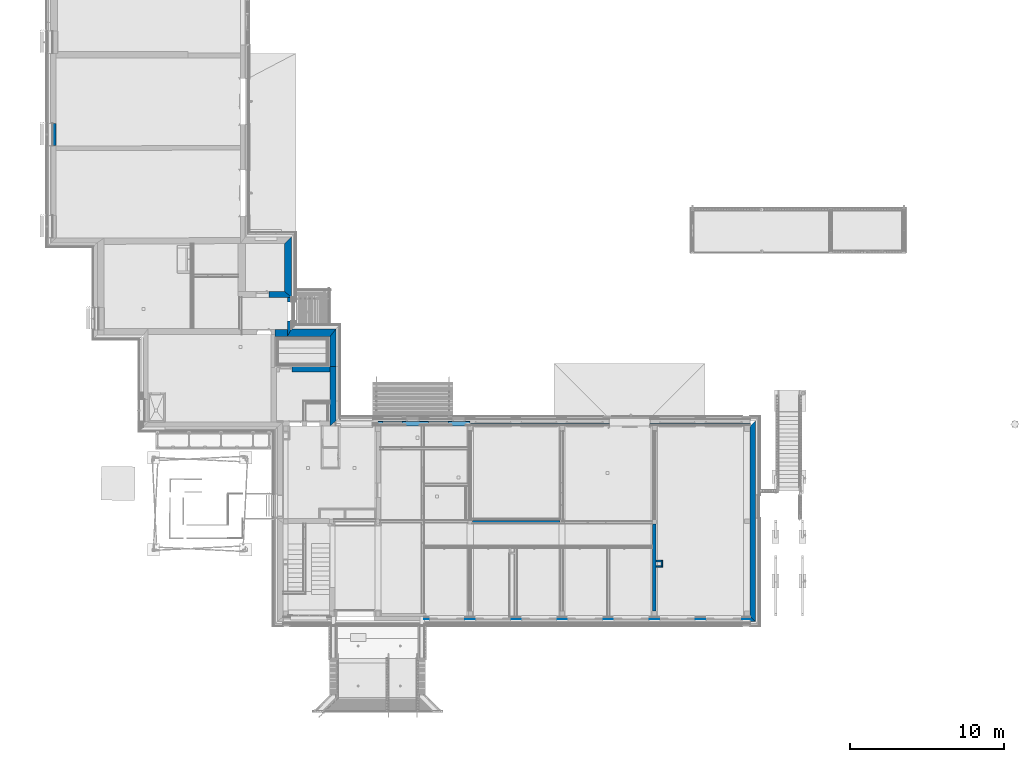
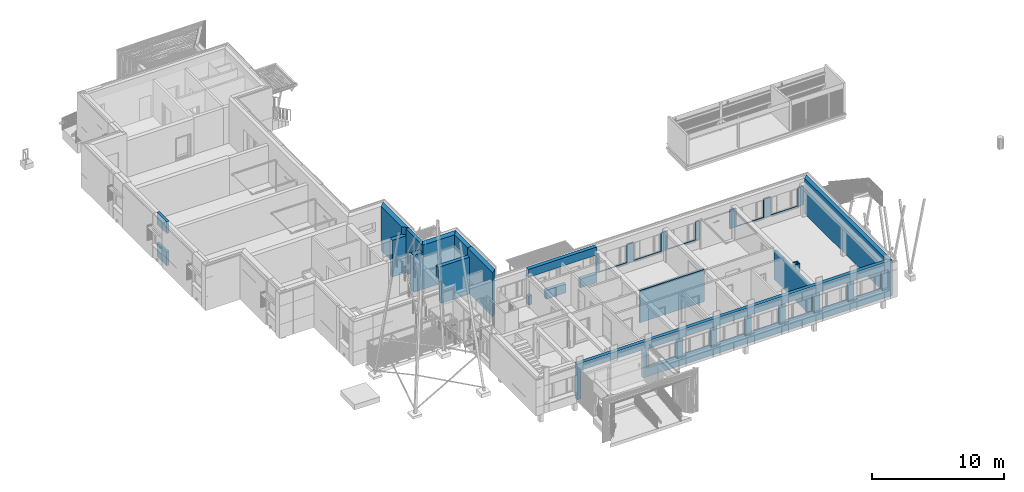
# One storey, part 24 of 418: 20 walls, 28 openings.
"""IFC2X3 building model written with IfcOpenShell, lengths in millimetres."""

from ifc_helpers import new_model, entity, si_unit, converted_unit, derived_unit, money_unit, direction, frame, origin_with_axes, origin_2d_with_axis, place, context, subcontext, project, spatial, polyline, rectangle, outline, extrude, material, layer, layer_set, layer_usage, type_object, element, save


model = new_model("IFC2X3")

# Units and contexts
model_context = context("Model", 3, precision=0.01, world=origin_with_axes(), true_north=direction((0.0, 1.0)))
body_context = subcontext(model_context, "Body", "Model", "MODEL_VIEW")
ifc_project = project(units=[si_unit("LENGTHUNIT", "METRE", prefix="MILLI"), si_unit("AREAUNIT", "SQUARE_METRE"), si_unit("VOLUMEUNIT", "CUBIC_METRE"), converted_unit("PLANEANGLEUNIT", "DEGREE", entity("IfcPlaneAngleMeasure", 0.0174532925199), si_unit("PLANEANGLEUNIT", "RADIAN"), dimensions=[0, 0, 0, 0, 0, 0, 0]), si_unit("SOLIDANGLEUNIT", "STERADIAN"), money_unit("EUR"), converted_unit("TIMEUNIT", "Year", entity("IfcTimeMeasure", 31556926.0), si_unit("TIMEUNIT", "SECOND"), dimensions=[0, 0, 1, 0, 0, 0, 0]), si_unit("MASSUNIT", "GRAM", prefix="KILO"), si_unit("THERMODYNAMICTEMPERATUREUNIT", "DEGREE_CELSIUS"), si_unit("LUMINOUSINTENSITYUNIT", "LUMEN"), si_unit("ENERGYUNIT", "JOULE", prefix="MEGA"), derived_unit("THERMALCONDUCTANCEUNIT", [(si_unit("POWERUNIT", "WATT"), 1), (si_unit("LENGTHUNIT", "METRE"), -1), (si_unit("THERMODYNAMICTEMPERATUREUNIT", "KELVIN"), -1)]), derived_unit("SPECIFICHEATCAPACITYUNIT", [(si_unit("ENERGYUNIT", "JOULE"), 1), (si_unit("MASSUNIT", "GRAM", prefix="KILO"), -1), (si_unit("THERMODYNAMICTEMPERATUREUNIT", "KELVIN"), -1)]), derived_unit("MASSDENSITYUNIT", [(si_unit("MASSUNIT", "GRAM", prefix="KILO"), 1), (si_unit("VOLUMEUNIT", "CUBIC_METRE"), -1)])], contexts=[model_context])

# Site, building, storey
site_placement = place(None, origin_with_axes())
site = spatial("IfcSite", under=ifc_project, at=site_placement, Name="Paldiski mnt 245/1, Tallinn, Harjumaa", CompositionType="COMPLEX")
building_placement = place(site_placement, origin_with_axes())
building = spatial("IfcBuilding", under=site, at=building_placement, Name="RKAS Hoone üldnimetus (kasutust iseloomustav) -> IFC Project Manager -> SOLIBRI", CompositionType="ELEMENT")
storey_placement = place(building_placement, origin_with_axes())
storey = spatial("IfcBuildingStorey", under=building, at=storey_placement, Name="Esimene korrus", CompositionType="ELEMENT", Elevation=0.0)

# Wall, openings
ifc_material_1 = material(Name="Olemasolev silikaltsiitpaneel")
ifc_layer_1 = layer(ifc_material_1, 320.0, ventilated="UNKNOWN")
ifc_layer_set_1 = layer_set([ifc_layer_1], Name="VS-02_olol")
ifc_layer_usage_1 = layer_usage(ifc_layer_set_1, "AXIS2", "NEGATIVE", 0.0)
wall_type_1 = type_object("IfcWallType", Name="VS-02_olol 320", PredefinedType="NOTDEFINED")
wall_1_placement = place(storey_placement, frame((-35440.0, -109.999999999, 2560.0), z_axis=(0.0, 0.0, 1.0), x_axis=(-1.0, 0.0, 0.0)))
wall_1 = element("IfcWallStandardCase", 1, at=wall_1_placement, inside=storey, type_object=wall_type_1, material=ifc_layer_usage_1, Name="VS-02", context=body_context, shape_type="SweptSolid", body=[
    extrude(outline(polyline([(0.0, -320.0), (6000.0, -320.0), (6000.0, 0.0), (0.0, 0.0), (0.0, -320.0)])), origin_with_axes(), (0.0, 0.0, 1.0), 740.0),
])
opening_1_placement = place(wall_1_placement, frame((-35440.0, -109.999999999, -2560.0), z_axis=(0.0, 0.0, 1.0), x_axis=(-1.0, 0.0, 0.0)))
element("IfcOpeningElement", 2, at=opening_1_placement, cuts=wall_1, Name="AVA", ObjectType="OPENING", context=body_context, shape_type="SweptSolid", body=[
    extrude(rectangle(XDim=1250.0, YDim=2100.0, at=origin_2d_with_axis()), frame((-40501.0, 530.000000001, 1050.0), z_axis=(0.0, 1.0, 0.0), x_axis=(-1.0, 0.0, 0.0)), (0.0, 0.0, -1.0), 960.000000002),
])
opening_2_placement = place(wall_1_placement, frame((-35440.0, -109.999999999, -2560.0), z_axis=(0.0, 0.0, 1.0), x_axis=(-1.0, 0.0, 0.0)))
element("IfcOpeningElement", 3, at=opening_2_placement, cuts=wall_1, Name="AVA", ObjectType="OPENING", context=body_context, shape_type="SweptSolid", body=[
    extrude(rectangle(XDim=1250.0, YDim=840.0, at=origin_2d_with_axis()), frame((-40501.0000027, 290.000059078, 420.0), z_axis=(0.0, 1.0, 0.0), x_axis=(-1.0, 0.0, 0.0)), (0.0, 0.0, -1.0), 720.000059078),
])
opening_3_placement = place(wall_1_placement, frame((-35440.0, -109.999999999, -2560.0), z_axis=(0.0, 0.0, 1.0), x_axis=(-1.0, 0.0, 0.0)))
element("IfcOpeningElement", 4, at=opening_3_placement, cuts=wall_1, Name="AVA", ObjectType="OPENING", context=body_context, shape_type="SweptSolid", body=[
    extrude(rectangle(XDim=1250.0, YDim=840.0, at=origin_2d_with_axis()), frame((-37511.0000024, 290.000059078, 420.0), z_axis=(0.0, 1.0, 0.0), x_axis=(-1.0, 0.0, 0.0)), (0.0, 0.0, -1.0), 720.000059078),
])
opening_4_placement = place(wall_1_placement, frame((-35440.0, -109.999999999, -2560.0), z_axis=(0.0, 0.0, 1.0), x_axis=(-1.0, 0.0, 0.0)))
element("IfcOpeningElement", 5, at=opening_4_placement, cuts=wall_1, Name="AVA", ObjectType="OPENING", context=body_context, shape_type="SweptSolid", body=[
    extrude(rectangle(XDim=1250.0, YDim=2100.0, at=origin_2d_with_axis()), frame((-37511.0, 530.000000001, 1050.0), z_axis=(0.0, 1.0, 0.0), x_axis=(-1.0, 0.0, 0.0)), (0.0, 0.0, -1.0), 960.000000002),
])

ifc_layer_usage_2 = layer_usage(ifc_layer_set_1, "AXIS2", "POSITIVE", 0.0)
wall_2_placement = place(storey_placement, frame((-17230.0, -12510.0843011, 0.0), z_axis=(0.0, 0.0, 1.0), x_axis=(-1.0, 0.0, 0.0)))
wall_2 = element("IfcWallStandardCase", 6, at=wall_2_placement, inside=storey, type_object=wall_type_1, material=ifc_layer_usage_2, Name="VS-02", context=body_context, shape_type="SweptSolid", body=[
    extrude(outline(polyline([(0.0, 0.0), (27260.0, 0.0), (27260.0, 320.0), (-350.0, 320.0), (0.0, 0.0)])), origin_with_axes(), (0.0, 0.0, 1.0), 3300.0),
])
opening_5_placement = place(wall_2_placement, frame((-17230.0, -12510.0843011, 0.0), z_axis=(0.0, 0.0, 1.0), x_axis=(-1.0, 0.0, 0.0)))
element("IfcOpeningElement", 7, at=opening_5_placement, cuts=wall_2, Name="AVA", ObjectType="OPENING", context=body_context, shape_type="SweptSolid", body=[
    extrude(rectangle(XDim=21190.0, YDim=1750.0, at=origin_2d_with_axis()), frame((-27825.0, -12190.0843011, 1685.0), z_axis=(0.0, 1.0, 0.0), x_axis=(-1.0, 0.0, 0.0)), (0.0, 0.0, -1.0), 960.000000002),
])
opening_6_placement = place(wall_2_placement, frame((-17230.0, -12510.0843011, 0.0), z_axis=(0.0, 0.0, 1.0), x_axis=(-1.0, 0.0, 0.0)))
element("IfcOpeningElement", 8, at=opening_6_placement, cuts=wall_2, Name="AVA", ObjectType="OPENING", context=body_context, shape_type="SweptSolid", body=[
    extrude(rectangle(XDim=5470.0, YDim=2620.0, at=origin_2d_with_axis()), frame((-41455.0, -12190.0843011, 1310.0), z_axis=(0.0, 1.0, 0.0), x_axis=(-1.0, 0.0, 0.0)), (0.0, 0.0, -1.0), 960.000000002),
])

# Walls
ifc_material_2 = material(Name="Olemasolev silikaltsiitplokk")
ifc_layer_2 = layer(ifc_material_2, 440.0, ventilated="UNKNOWN")
ifc_layer_set_2 = layer_set([ifc_layer_2], Name="Olemasolev silikaltsiitplokk 440")
ifc_layer_usage_3 = layer_usage(ifc_layer_set_2, "AXIS2", "NEGATIVE", 0.0)
wall_type_2 = type_object("IfcWallType", Name="Olemasolev silikaltsiitplokk 440", PredefinedType="NOTDEFINED")
wall_3_placement = place(storey_placement, frame((-47510.0, 8250.0, 0.0), z_axis=(0.0, 0.0, 1.0), x_axis=(0.0, 1.0, 0.0)))
element("IfcWallStandardCase", 9, at=wall_3_placement, inside=storey, type_object=wall_type_2, material=ifc_layer_usage_3, Name="VS-03", context=body_context, shape_type="SweptSolid", body=[
    extrude(outline(polyline([(0.0, -440.0), (3939.82872435, -440.0), (3499.82872435, 0.0), (380.0, 0.0), (0.0, -440.0)])), origin_with_axes(), (0.0, 0.0, 1.0), 4090.0),
])
ifc_layer_3 = layer(ifc_material_2, 350.0, ventilated="UNKNOWN")
ifc_layer_set_3 = layer_set([ifc_layer_3], Name="Olemasolev silikaltsiitplokk 350")
ifc_layer_usage_4 = layer_usage(ifc_layer_set_3, "AXIS2", "NEGATIVE", 0.0)
wall_type_3 = type_object("IfcWallType", Name="Olemasolev silikaltsiitplokk 350", PredefinedType="NOTDEFINED")
wall_4_placement = place(storey_placement, frame((-17230.0, -12510.0843011, 0.0), z_axis=(0.0, 0.0, 1.0), x_axis=(0.0, 1.0, 0.0)))
element("IfcWallStandardCase", 10, at=wall_4_placement, inside=storey, type_object=wall_type_3, material=ifc_layer_usage_4, Name="VS-03", context=body_context, shape_type="SweptSolid", body=[
    extrude(outline(polyline([(-320.0, -350.0), (12720.0843011, -350.0), (12400.0843011, 0.0), (0.0, 0.0), (-320.0, -350.0)])), origin_with_axes(), (0.0, 0.0, 1.0), 3300.0),
])
ifc_layer_4 = layer(ifc_material_2, 380.0, ventilated="UNKNOWN")
ifc_layer_set_4 = layer_set([ifc_layer_4], Name="Olemasolev silikaltsiitplokk 380")
ifc_layer_usage_5 = layer_usage(ifc_layer_set_4, "AXIS2", "NEGATIVE", 0.0)
wall_type_4 = type_object("IfcWallType", Name="Olemasolev silikaltsiitplokk 380", PredefinedType="NOTDEFINED")
wall_5_placement = place(storey_placement, frame((-44560.5504586, 3739.82872435, 0.0), z_axis=(0.0, 0.0, 1.0), x_axis=(0.0, 1.0, 0.0)))
element("IfcWallStandardCase", 11, at=wall_5_placement, inside=storey, type_object=wall_type_4, material=ifc_layer_usage_5, Name="VS-07", context=body_context, shape_type="SweptSolid", body=[
    extrude(outline(polyline([(0.0, -380.0), (2450.0, -380.0), (1960.0, 0.0), (0.0, 0.0), (0.0, -380.0)])), origin_with_axes(), (0.0, 0.0, 1.0), 4090.0),
])
ifc_layer_usage_6 = layer_usage(ifc_layer_set_4, "AXIS2", "NEGATIVE", 0.0)
wall_6_placement = place(storey_placement, frame((-44560.5504586, -109.999999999, 0.0), z_axis=(0.0, 0.0, 1.0), x_axis=(0.0, 1.0, 0.0)))
element("IfcWallStandardCase", 12, at=wall_6_placement, inside=storey, type_object=wall_type_4, material=ifc_layer_usage_6, Name="VS-03", context=body_context, shape_type="SweptSolid", body=[
    extrude(outline(polyline([(320.0, -380.0), (3849.82872435, -380.0), (3849.82872435, 0.0), (0.0, 0.0), (320.0, -380.0)])), origin_with_axes(), (0.0, 0.0, 1.0), 4090.0),
])
ifc_layer_usage_7 = layer_usage(ifc_layer_set_4, "AXIS2", "NEGATIVE", 0.0)
wall_7_placement = place(storey_placement, frame((-47510.0, 8250.0, 0.0), z_axis=(0.0, 0.0, 1.0), x_axis=(-1.0, 0.0, 0.0)))
element("IfcWallStandardCase", 13, at=wall_7_placement, inside=storey, type_object=wall_type_4, material=ifc_layer_usage_7, Name="SS-02", context=body_context, shape_type="SweptSolid", body=[
    extrude(outline(polyline([(0.0, -380.0), (1014.99759051, -380.0), (1014.99759051, 0.0), (-440.0, 0.0), (0.0, -380.0)])), origin_with_axes(), (0.0, 0.0, 1.0), 3411.80696097),
])
ifc_material_3 = material(Name="BAUROC Acoustic")
ifc_layer_5 = layer(ifc_material_3, 100.0, ventilated="UNKNOWN")
ifc_layer_set_5 = layer_set([ifc_layer_5], Name="SS-11")
ifc_layer_usage_8 = layer_usage(ifc_layer_set_5, "AXIS2", "NEGATIVE", 100.0)
wall_type_5 = type_object("IfcWallType", Name="SS-11 100", PredefinedType="NOTDEFINED")
wall_8_placement = place(storey_placement, frame((-23015.0, -9199.82374061, 0.0), z_axis=(0.0, 0.0, 1.0), x_axis=(-1.0, 0.0, 0.0)))
element("IfcWallStandardCase", 14, at=wall_8_placement, inside=storey, type_object=wall_type_5, material=ifc_layer_usage_8, Name="SS-11", context=body_context, shape_type="SweptSolid", body=[
    extrude(outline(polyline([(0.0, 0.0), (325.0, 0.0), (325.0, 100.0), (-100.0, 100.0), (0.0, 0.0)])), origin_with_axes(), (0.0, 0.0, 1.0), 2950.0),
])
ifc_layer_usage_9 = layer_usage(ifc_layer_set_5, "AXIS2", "NEGATIVE", 100.0)
wall_9_placement = place(storey_placement, frame((-23340.0, -8949.82374061, 0.0), z_axis=(0.0, 0.0, 1.0), x_axis=(1.0, 0.0, 0.0)))
element("IfcWallStandardCase", 15, at=wall_9_placement, inside=storey, type_object=wall_type_5, material=ifc_layer_usage_9, Name="SS-11", context=body_context, shape_type="SweptSolid", body=[
    extrude(outline(polyline([(0.0, 0.0), (325.0, 0.0), (425.0, 100.0), (0.0, 100.0), (0.0, 0.0)])), origin_with_axes(), (0.0, 0.0, 1.0), 2950.0),
])
ifc_layer_usage_10 = layer_usage(ifc_layer_set_5, "AXIS2", "NEGATIVE", 100.0)
wall_10_placement = place(storey_placement, frame((-23015.0, -8949.82374061, 0.0), z_axis=(0.0, 0.0, 1.0), x_axis=(0.0, -1.0, 0.0)))
element("IfcWallStandardCase", 16, at=wall_10_placement, inside=storey, type_object=wall_type_5, material=ifc_layer_usage_10, Name="SS-11", context=body_context, shape_type="SweptSolid", body=[
    extrude(outline(polyline([(0.0, 0.0), (250.0, 0.0), (350.0, 100.0), (-100.0, 100.0), (0.0, 0.0)])), origin_with_axes(), (0.0, 0.0, 1.0), 2950.0),
])
ifc_layer_6 = layer(ifc_material_2, 490.0, ventilated="UNKNOWN")
ifc_layer_set_6 = layer_set([ifc_layer_6], Name="Olemasolev silikaltsiitplokk 490")
ifc_layer_usage_11 = layer_usage(ifc_layer_set_6, "AXIS2", "NEGATIVE", 0.0)
wall_type_6 = type_object("IfcWallType", Name="Olemasolev silikaltsiitplokk 490", PredefinedType="NOTDEFINED")
wall_11_placement = place(storey_placement, frame((-44560.5504586, 5699.82872435, 0.0), z_axis=(0.0, 0.0, 1.0), x_axis=(-1.0, 0.0, 0.0)))
element("IfcWallStandardCase", 17, at=wall_11_placement, inside=storey, type_object=wall_type_6, material=ifc_layer_usage_11, Name="VS-07", context=body_context, shape_type="SweptSolid", body=[
    extrude(outline(polyline([(-380.0, -490.0), (2509.44954137, -490.0), (2779.44954137, 0.0), (0.0, 0.0), (-380.0, -490.0)])), origin_with_axes(), (0.0, 0.0, 1.0), 4090.0),
])

# Wall, openings
ifc_layer_7 = layer(ifc_material_2, 340.0, ventilated="UNKNOWN")
ifc_layer_set_7 = layer_set([ifc_layer_7], Name="Olemasolev silikaltsiitplokk 340")
ifc_layer_usage_12 = layer_usage(ifc_layer_set_7, "AXIS2", "NEGATIVE", 0.0)
wall_type_7 = type_object("IfcWallType", Name="Olemasolev silikaltsiitplokk 340", PredefinedType="NOTDEFINED")
wall_12_placement = place(storey_placement, frame((-44560.5504586, 3399.82872435, 0.0), z_axis=(0.0, 0.0, 1.0), x_axis=(-1.0, 0.0, 0.0)))
wall_12 = element("IfcWallStandardCase", 18, at=wall_12_placement, inside=storey, type_object=wall_type_7, material=ifc_layer_usage_12, Name="SS-12", context=body_context, shape_type="SweptSolid", body=[
    extrude(outline(polyline([(0.0, -340.0), (2739.44954137, -340.0), (2739.44954137, 0.0), (0.0, 0.0), (0.0, -340.0)])), origin_with_axes(), (0.0, 0.0, 1.0), 3419.17631357),
])
opening_7_placement = place(wall_12_placement, frame((2609.44688082, 0.0, 0.0), z_axis=(0.0, 0.0, 1.0), x_axis=(1.0, 0.0, 0.0)))
element("IfcOpeningElement", 19, at=opening_7_placement, cuts=wall_12, Name="AVA", context=body_context, shape_type="SweptSolid", body=[
    extrude(rectangle(XDim=260.005321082, YDim=2100.0, at=origin_2d_with_axis()), frame((0.0, -180.0, 1050.0), z_axis=(0.0, -1.0, 0.0), x_axis=(1.0, 0.0, 0.0)), (0.0, 0.0, -1.0), 520.0),
    extrude(rectangle(XDim=260.005321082, YDim=2100.0, at=origin_2d_with_axis()), frame((0.0, -180.0, 1050.0), z_axis=(0.0, 1.0, 0.0), x_axis=(1.0, 0.0, 0.0)), (0.0, 0.0, -1.0), 520.0),
])
opening_8_placement = place(wall_12_placement, frame((2879.44954137, 0.0, 0.0), z_axis=(0.0, 0.0, 1.0), x_axis=(1.0, 0.0, 0.0)))
element("IfcOpeningElement", 20, at=opening_8_placement, cuts=wall_12, Name="SU-09v", context=body_context, shape_type="SweptSolid", body=[
    extrude(rectangle(XDim=800.0, YDim=2100.0, at=origin_2d_with_axis()), frame((0.0, -180.0, 1050.0), z_axis=(0.0, -1.0, 0.0), x_axis=(1.0, 0.0, 0.0)), (0.0, 0.0, -1.0), 520.0),
    extrude(rectangle(XDim=800.0, YDim=2100.0, at=origin_2d_with_axis()), frame((0.0, -180.0, 1050.0), z_axis=(0.0, 1.0, 0.0), x_axis=(1.0, 0.0, 0.0)), (0.0, 0.0, -1.0), 500.0),
])

# Walls
ifc_material_4 = material(Name="Olemasolev silikaattellis")
ifc_layer_8 = layer(ifc_material_4, 450.0, ventilated="UNKNOWN")
ifc_layer_set_8 = layer_set([ifc_layer_8], Name="Olemasolev silikaattellis 450")
ifc_layer_usage_13 = layer_usage(ifc_layer_set_8, "AXIS2", "NEGATIVE", 0.0)
wall_type_8 = type_object("IfcWallType", Name="Olemasolev silikaattellis 450", PredefinedType="NOTDEFINED")
wall_13_placement = place(storey_placement, frame((-48140.0, 6150.0, 0.0), z_axis=(0.0, 0.0, 1.0), x_axis=(1.0, 0.0, 0.0)))
element("IfcWallStandardCase", 21, at=wall_13_placement, inside=storey, type_object=wall_type_8, material=ifc_layer_usage_13, Name="SS-12", context=body_context, shape_type="SweptSolid", body=[
    extrude(outline(polyline([(0.0, -450.0), (800.0, -450.0), (800.0, 0.0), (0.0, 0.0), (0.0, -450.0)])), origin_with_axes(), (0.0, 0.0, 1.0), 3420.80687192),
])
ifc_layer_9 = layer(ifc_material_4, 250.0, ventilated="UNKNOWN")
ifc_layer_set_9 = layer_set([ifc_layer_9], Name="Olemasolev silikaattellis 250")
ifc_layer_usage_14 = layer_usage(ifc_layer_set_9, "AXIS2", "NEGATIVE", 0.0)
wall_type_9 = type_object("IfcWallType", Name="Olemasolev silikaattellis 250", PredefinedType="NOTDEFINED")
wall_14_placement = place(storey_placement, frame((-23340.0, -6480.0, 0.0), z_axis=(0.0, 0.0, 1.0), x_axis=(0.0, -1.0, 0.0)))
element("IfcWallStandardCase", 22, at=wall_14_placement, inside=storey, type_object=wall_type_9, material=ifc_layer_usage_14, Name="SS-01", context=body_context, shape_type="SweptSolid", body=[
    extrude(outline(polyline([(0.0, -250.0), (5670.08408706, -250.0), (5670.08408706, 0.0), (0.0, 0.0), (0.0, -250.0)])), origin_with_axes(), (0.0, 0.0, 1.0), 2670.0),
])

# Wall, openings
ifc_layer_10 = layer(ifc_material_2, 115.0, ventilated="UNKNOWN")
ifc_layer_set_10 = layer_set([ifc_layer_10], Name="VS-04_olol")
ifc_layer_usage_15 = layer_usage(ifc_layer_set_10, "AXIS2", "POSITIVE", 0.0)
wall_type_10 = type_object("IfcWallType", Name="VS-04_olol 115", PredefinedType="NOTDEFINED")
wall_15_placement = place(storey_placement, frame((-17230.0, -12575.0843011, 810.0), z_axis=(0.0, 0.0, 1.0), x_axis=(-1.0, 0.0, 0.0)))
wall_15 = element("IfcWallStandardCase", 23, at=wall_15_placement, inside=storey, type_object=wall_type_10, material=ifc_layer_usage_15, Name="VS-04", context=body_context, shape_type="SweptSolid", body=[
    extrude(outline(polyline([(0.0, 0.0), (21190.0, 0.0), (21190.0, 115.0), (0.0, 115.0), (0.0, 0.0)])), origin_with_axes(), (0.0, 0.0, 1.0), 1750.0),
])
opening_9_placement = place(wall_15_placement, frame((19720.0, -4.51194637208e-10, 0.0), z_axis=(0.0, 0.0, 1.0), x_axis=(1.0, 0.0, 0.0)))
element("IfcOpeningElement", 24, at=opening_9_placement, cuts=wall_15, Name="AVA", context=body_context, shape_type="SweptSolid", body=[
    extrude(rectangle(XDim=2400.0, YDim=1750.0, at=origin_2d_with_axis()), frame((0.0, 35.0000000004, 875.0), z_axis=(0.0, -1.0, 0.0), x_axis=(1.0, 0.0, 0.0)), (0.0, 0.0, -1.0), 195.0),
    extrude(rectangle(XDim=2400.0, YDim=1750.0, at=origin_2d_with_axis()), frame((0.0, 35.0000000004, 875.0), z_axis=(0.0, 1.0, 0.0), x_axis=(1.0, 0.0, 0.0)), (0.0, 0.0, -1.0), 195.0),
])
opening_10_placement = place(wall_15_placement, frame((16720.0, -3.81916720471e-10, 0.0), z_axis=(0.0, 0.0, 1.0), x_axis=(1.0, 0.0, 0.0)))
element("IfcOpeningElement", 25, at=opening_10_placement, cuts=wall_15, Name="AVA", context=body_context, shape_type="SweptSolid", body=[
    extrude(rectangle(XDim=2400.0, YDim=1750.0, at=origin_2d_with_axis()), frame((0.0, 35.0000000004, 875.0), z_axis=(0.0, -1.0, 0.0), x_axis=(1.0, 0.0, 0.0)), (0.0, 0.0, -1.0), 195.0),
    extrude(rectangle(XDim=2400.0, YDim=1750.0, at=origin_2d_with_axis()), frame((0.0, 35.0000000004, 875.0), z_axis=(0.0, 1.0, 0.0), x_axis=(1.0, 0.0, 0.0)), (0.0, 0.0, -1.0), 195.0),
])
opening_11_placement = place(wall_15_placement, frame((13720.0, -3.14415160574e-10, 0.0), z_axis=(0.0, 0.0, 1.0), x_axis=(1.0, 0.0, 0.0)))
element("IfcOpeningElement", 26, at=opening_11_placement, cuts=wall_15, Name="AVA", context=body_context, shape_type="SweptSolid", body=[
    extrude(rectangle(XDim=2400.0, YDim=1750.0, at=origin_2d_with_axis()), frame((0.0, 35.0000000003, 875.0), z_axis=(0.0, -1.0, 0.0), x_axis=(1.0, 0.0, 0.0)), (0.0, 0.0, -1.0), 195.0),
    extrude(rectangle(XDim=2400.0, YDim=1750.0, at=origin_2d_with_axis()), frame((0.0, 35.0000000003, 875.0), z_axis=(0.0, 1.0, 0.0), x_axis=(1.0, 0.0, 0.0)), (0.0, 0.0, -1.0), 195.0),
])
opening_12_placement = place(wall_15_placement, frame((10720.0, -2.45137243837e-10, 0.0), z_axis=(0.0, 0.0, 1.0), x_axis=(1.0, 0.0, 0.0)))
element("IfcOpeningElement", 27, at=opening_12_placement, cuts=wall_15, Name="AVA", context=body_context, shape_type="SweptSolid", body=[
    extrude(rectangle(XDim=2400.0, YDim=1750.0, at=origin_2d_with_axis()), frame((0.0, 35.0000000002, 875.0), z_axis=(0.0, -1.0, 0.0), x_axis=(1.0, 0.0, 0.0)), (0.0, 0.0, -1.0), 195.0),
    extrude(rectangle(XDim=2400.0, YDim=1750.0, at=origin_2d_with_axis()), frame((0.0, 35.0000000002, 875.0), z_axis=(0.0, 1.0, 0.0), x_axis=(1.0, 0.0, 0.0)), (0.0, 0.0, -1.0), 195.0),
])
opening_13_placement = place(wall_15_placement, frame((7720.0, -1.75859327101e-10, 0.0), z_axis=(0.0, 0.0, 1.0), x_axis=(1.0, 0.0, 0.0)))
element("IfcOpeningElement", 28, at=opening_13_placement, cuts=wall_15, Name="AVA", context=body_context, shape_type="SweptSolid", body=[
    extrude(rectangle(XDim=2400.0, YDim=1750.0, at=origin_2d_with_axis()), frame((0.0, 35.0000000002, 875.0), z_axis=(0.0, -1.0, 0.0), x_axis=(1.0, 0.0, 0.0)), (0.0, 0.0, -1.0), 195.0),
    extrude(rectangle(XDim=2400.0, YDim=1750.0, at=origin_2d_with_axis()), frame((0.0, 35.0000000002, 875.0), z_axis=(0.0, 1.0, 0.0), x_axis=(1.0, 0.0, 0.0)), (0.0, 0.0, -1.0), 195.0),
])
opening_14_placement = place(wall_15_placement, frame((4720.0, -1.08357767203e-10, 0.0), z_axis=(0.0, 0.0, 1.0), x_axis=(1.0, 0.0, 0.0)))
element("IfcOpeningElement", 29, at=opening_14_placement, cuts=wall_15, Name="AVA", context=body_context, shape_type="SweptSolid", body=[
    extrude(rectangle(XDim=2400.0, YDim=1750.0, at=origin_2d_with_axis()), frame((0.0, 35.0000000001, 875.0), z_axis=(0.0, -1.0, 0.0), x_axis=(1.0, 0.0, 0.0)), (0.0, 0.0, -1.0), 195.0),
    extrude(rectangle(XDim=2400.0, YDim=1750.0, at=origin_2d_with_axis()), frame((0.0, 35.0000000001, 875.0), z_axis=(0.0, 1.0, 0.0), x_axis=(1.0, 0.0, 0.0)), (0.0, 0.0, -1.0), 195.0),
])
opening_15_placement = place(wall_15_placement, frame((1720.0, 0.0, 0.0), z_axis=(0.0, 0.0, 1.0), x_axis=(1.0, 0.0, 0.0)))
element("IfcOpeningElement", 30, at=opening_15_placement, cuts=wall_15, Name="AVA", context=body_context, shape_type="SweptSolid", body=[
    extrude(rectangle(XDim=2400.0, YDim=1750.0, at=origin_2d_with_axis()), frame((0.0, 35.0, 875.0), z_axis=(0.0, -1.0, 0.0), x_axis=(1.0, 0.0, 0.0)), (0.0, 0.0, -1.0), 195.0),
    extrude(rectangle(XDim=2400.0, YDim=1750.0, at=origin_2d_with_axis()), frame((0.0, 35.0, 875.0), z_axis=(0.0, 1.0, 0.0), x_axis=(1.0, 0.0, 0.0)), (0.0, 0.0, -1.0), 195.0),
])

ifc_layer_usage_16 = layer_usage(ifc_layer_set_10, "AXIS2", "NEGATIVE", 0.0)
wall_16_placement = place(storey_placement, frame((-17230.0, -44.9999999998, 810.0), z_axis=(0.0, 0.0, 1.0), x_axis=(-1.0, 0.0, 0.0)))
wall_16 = element("IfcWallStandardCase", 31, at=wall_16_placement, inside=storey, type_object=wall_type_10, material=ifc_layer_usage_16, Name="VS-04", context=body_context, shape_type="SweptSolid", body=[
    extrude(outline(polyline([(0.0, -115.0), (18210.0, -115.0), (18210.0, 0.0), (0.0, 0.0), (0.0, -115.0)])), origin_with_axes(), (0.0, 0.0, 1.0), 1750.0),
])
opening_16_placement = place(wall_16_placement, frame((16730.0, -3.8515024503e-10, 30.0), z_axis=(0.0, 0.0, 1.0), x_axis=(1.0, 0.0, 0.0)))
element("IfcOpeningElement", 32, at=opening_16_placement, cuts=wall_16, Name="AVA", context=body_context, shape_type="SweptSolid", body=[
    extrude(rectangle(XDim=2420.0, YDim=1720.0, at=origin_2d_with_axis()), frame((0.0, -34.9999999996, 860.0), z_axis=(0.0, 1.0, 0.0), x_axis=(1.0, 0.0, 0.0)), (0.0, 0.0, -1.0), 195.0),
    extrude(rectangle(XDim=2420.0, YDim=1720.0, at=origin_2d_with_axis()), frame((0.0, -34.9999999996, 860.0), z_axis=(0.0, -1.0, 0.0), x_axis=(1.0, 0.0, 0.0)), (0.0, 0.0, -1.0), 195.0),
])
opening_17_placement = place(wall_16_placement, frame((13730.0, -3.16087434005e-10, 30.0), z_axis=(0.0, 0.0, 1.0), x_axis=(1.0, 0.0, 0.0)))
element("IfcOpeningElement", 33, at=opening_17_placement, cuts=wall_16, Name="AVA", context=body_context, shape_type="SweptSolid", body=[
    extrude(rectangle(XDim=2420.0, YDim=1720.0, at=origin_2d_with_axis()), frame((0.0, -34.9999999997, 860.0), z_axis=(0.0, 1.0, 0.0), x_axis=(1.0, 0.0, 0.0)), (0.0, 0.0, -1.0), 195.0),
    extrude(rectangle(XDim=2420.0, YDim=1720.0, at=origin_2d_with_axis()), frame((0.0, -34.9999999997, 860.0), z_axis=(0.0, -1.0, 0.0), x_axis=(1.0, 0.0, 0.0)), (0.0, 0.0, -1.0), 195.0),
])
opening_18_placement = place(wall_16_placement, frame((10730.0, -2.47017684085e-10, 30.0), z_axis=(0.0, 0.0, 1.0), x_axis=(1.0, 0.0, 0.0)))
element("IfcOpeningElement", 34, at=opening_18_placement, cuts=wall_16, Name="AVA", context=body_context, shape_type="SweptSolid", body=[
    extrude(rectangle(XDim=2420.0, YDim=1720.0, at=origin_2d_with_axis()), frame((0.0, -34.9999999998, 860.0), z_axis=(0.0, 1.0, 0.0), x_axis=(1.0, 0.0, 0.0)), (0.0, 0.0, -1.0), 195.0),
    extrude(rectangle(XDim=2420.0, YDim=1720.0, at=origin_2d_with_axis()), frame((0.0, -34.9999999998, 860.0), z_axis=(0.0, -1.0, 0.0), x_axis=(1.0, 0.0, 0.0)), (0.0, 0.0, -1.0), 195.0),
])
opening_19_placement = place(wall_16_placement, frame((4730.0, -1.08892062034e-10, 30.0), z_axis=(0.0, 0.0, 1.0), x_axis=(1.0, 0.0, 0.0)))
element("IfcOpeningElement", 35, at=opening_19_placement, cuts=wall_16, Name="AVA", context=body_context, shape_type="SweptSolid", body=[
    extrude(rectangle(XDim=2420.0, YDim=1720.0, at=origin_2d_with_axis()), frame((0.0, -34.9999999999, 860.0), z_axis=(0.0, 1.0, 0.0), x_axis=(1.0, 0.0, 0.0)), (0.0, 0.0, -1.0), 195.0),
    extrude(rectangle(XDim=2420.0, YDim=1720.0, at=origin_2d_with_axis()), frame((0.0, -34.9999999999, 860.0), z_axis=(0.0, -1.0, 0.0), x_axis=(1.0, 0.0, 0.0)), (0.0, 0.0, -1.0), 195.0),
])
opening_20_placement = place(wall_16_placement, frame((1730.0, 0.0, 30.0), z_axis=(0.0, 0.0, 1.0), x_axis=(1.0, 0.0, 0.0)))
element("IfcOpeningElement", 36, at=opening_20_placement, cuts=wall_16, Name="AVA", context=body_context, shape_type="SweptSolid", body=[
    extrude(rectangle(XDim=2420.0, YDim=1720.0, at=origin_2d_with_axis()), frame((0.0, -35.0, 860.0), z_axis=(0.0, 1.0, 0.0), x_axis=(1.0, 0.0, 0.0)), (0.0, 0.0, -1.0), 195.0),
    extrude(rectangle(XDim=2420.0, YDim=1720.0, at=origin_2d_with_axis()), frame((0.0, -35.0, 860.0), z_axis=(0.0, -1.0, 0.0), x_axis=(1.0, 0.0, 0.0)), (0.0, 0.0, -1.0), 195.0),
])
opening_21_placement = place(wall_16_placement, frame((7835.0, -1.80369608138e-10, -810.0), z_axis=(0.0, 0.0, 1.0), x_axis=(1.0, 0.0, 0.0)))
element("IfcOpeningElement", 37, at=opening_21_placement, cuts=wall_16, Name="AVA", context=body_context, shape_type="SweptSolid", body=[
    extrude(rectangle(XDim=2650.0, YDim=2560.0, at=origin_2d_with_axis()), frame((0.0, 135.0, 1280.0), z_axis=(0.0, 1.0, 0.0), x_axis=(1.0, 0.0, 0.0)), (0.0, 0.0, -1.0), 365.0),
    extrude(rectangle(XDim=2650.0, YDim=2560.0, at=origin_2d_with_axis()), frame((0.0, 135.0, 1280.0), z_axis=(0.0, -1.0, 0.0), x_axis=(1.0, 0.0, 0.0)), (0.0, 0.0, -1.0), 365.0),
])

ifc_material_5 = material(Name="BAUROC CLASSIC 3 MPa kergplokk")
ifc_layer_11 = layer(ifc_material_5, 300.0, ventilated="UNKNOWN")
ifc_layer_set_11 = layer_set([ifc_layer_11], Name="VS-06_sisekiht")
ifc_layer_usage_17 = layer_usage(ifc_layer_set_11, "AXIS2", "POSITIVE", 0.0)
wall_type_11 = type_object("IfcWallType", Name="VS-06_sisekiht 300", PredefinedType="NOTDEFINED")
wall_17_placement = place(storey_placement, frame((-35440.0, 190.000000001, 0.0), z_axis=(0.0, 0.0, 1.0), x_axis=(-1.0, 0.0, 0.0)))
wall_17 = element("IfcWallStandardCase", 38, at=wall_17_placement, inside=storey, type_object=wall_type_11, material=ifc_layer_usage_17, Name="VS-06", context=body_context, shape_type="SweptSolid", body=[
    extrude(outline(polyline([(0.0, 0.0), (6000.0, 0.0), (6000.0, 300.0), (0.0, 300.0), (0.0, 0.0)])), origin_with_axes(), (0.0, 0.0, 1.0), 810.0),
])
opening_22_placement = place(wall_17_placement, frame((746.0, 0.0, 810.0), z_axis=(0.0, 0.0, 1.0), x_axis=(1.0, 0.0, 0.0)))
element("IfcOpeningElement", 39, at=opening_22_placement, cuts=wall_17, Name="AVA", context=body_context, shape_type="SweptSolid", body=[
    extrude(rectangle(XDim=900.0, YDim=1750.0, at=origin_2d_with_axis()), frame((0.0, 450.0, 875.0), z_axis=(0.0, -1.0, 0.0), x_axis=(1.0, 0.0, 0.0)), (0.0, 0.0, -1.0), 450.0),
    extrude(rectangle(XDim=900.0, YDim=1750.0, at=origin_2d_with_axis()), frame((0.0, 450.0, 875.0), z_axis=(0.0, 1.0, 0.0), x_axis=(1.0, 0.0, 0.0)), (0.0, 0.0, -1.0), 450.0),
])
opening_23_placement = place(wall_17_placement, frame((3736.0, 0.0, 810.0), z_axis=(0.0, 0.0, 1.0), x_axis=(1.0, 0.0, 0.0)))
element("IfcOpeningElement", 40, at=opening_23_placement, cuts=wall_17, Name="AVA", context=body_context, shape_type="SweptSolid", body=[
    extrude(rectangle(XDim=900.0, YDim=1750.0, at=origin_2d_with_axis()), frame((0.0, 450.0, 875.0), z_axis=(0.0, -1.0, 0.0), x_axis=(1.0, 0.0, 0.0)), (0.0, 0.0, -1.0), 450.0),
    extrude(rectangle(XDim=900.0, YDim=1750.0, at=origin_2d_with_axis()), frame((0.0, 450.0, 875.0), z_axis=(0.0, 1.0, 0.0), x_axis=(1.0, 0.0, 0.0)), (0.0, 0.0, -1.0), 450.0),
])
opening_24_placement = place(wall_17_placement, frame((5061.0, 0.0, 0.0), z_axis=(0.0, 0.0, 1.0), x_axis=(1.0, 0.0, 0.0)))
element("IfcOpeningElement", 41, at=opening_24_placement, cuts=wall_17, Name="AVA", context=body_context, shape_type="SweptSolid", body=[
    extrude(rectangle(XDim=1250.0, YDim=2100.0, at=origin_2d_with_axis()), frame((0.0, 200.0, 1050.0), z_axis=(0.0, -1.0, 0.0), x_axis=(1.0, 0.0, 0.0)), (0.0, 0.0, -1.0), 400.0),
    extrude(rectangle(XDim=1250.0, YDim=2100.0, at=origin_2d_with_axis()), frame((0.0, 200.0, 1050.0), z_axis=(0.0, 1.0, 0.0), x_axis=(1.0, 0.0, 0.0)), (0.0, 0.0, -1.0), 400.0),
])
opening_25_placement = place(wall_17_placement, frame((2071.0, 0.0, 0.0), z_axis=(0.0, 0.0, 1.0), x_axis=(1.0, 0.0, 0.0)))
element("IfcOpeningElement", 42, at=opening_25_placement, cuts=wall_17, Name="AVA", context=body_context, shape_type="SweptSolid", body=[
    extrude(rectangle(XDim=1250.0, YDim=2100.0, at=origin_2d_with_axis()), frame((0.0, 200.0, 1050.0), z_axis=(0.0, -1.0, 0.0), x_axis=(1.0, 0.0, 0.0)), (0.0, 0.0, -1.0), 400.0),
    extrude(rectangle(XDim=1250.0, YDim=2100.0, at=origin_2d_with_axis()), frame((0.0, 200.0, 1050.0), z_axis=(0.0, 1.0, 0.0), x_axis=(1.0, 0.0, 0.0)), (0.0, 0.0, -1.0), 400.0),
])

# Wall, opening
ifc_layer_12 = layer(ifc_material_2, 220.0, ventilated="UNKNOWN")
ifc_layer_set_12 = layer_set([ifc_layer_12], Name="Olemasolev silikaltsiitplokk 220")
ifc_layer_usage_18 = layer_usage(ifc_layer_set_12, "AXIS2", "NEGATIVE", 0.0)
wall_type_12 = type_object("IfcWallType", Name="Olemasolev silikaltsiitplokk 220", PredefinedType="NOTDEFINED")
wall_18_placement = place(storey_placement, frame((-62390.0, 19579.8288003, 0.0), z_axis=(0.0, 0.0, 1.0), x_axis=(0.0, -1.0, 0.0)))
wall_18 = element("IfcWallStandardCase", 43, at=wall_18_placement, inside=storey, type_object=wall_type_12, material=ifc_layer_usage_18, Name="VS-05", context=body_context, shape_type="SweptSolid", body=[
    extrude(outline(polyline([(0.0, -220.0), (1450.0, -220.0), (1450.0, 0.0), (0.0, 0.0), (0.0, -220.0)])), origin_with_axes(), (0.0, 0.0, 1.0), 4090.0),
])
opening_26_placement = place(wall_18_placement, frame((724.999997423, 0.0, 1280.0), z_axis=(0.0, 0.0, 1.0), x_axis=(1.0, 0.0, 0.0)))
element("IfcOpeningElement", 44, at=opening_26_placement, cuts=wall_18, Name="AVA", context=body_context, shape_type="SweptSolid", body=[
    extrude(rectangle(XDim=1450.0, YDim=1700.0, at=origin_2d_with_axis()), frame((0.0, -120.0, 850.0), z_axis=(0.0, 1.0, 0.0), x_axis=(1.0, 0.0, 0.0)), (0.0, 0.0, -1.0), 320.0),
    extrude(rectangle(XDim=1450.0, YDim=1700.0, at=origin_2d_with_axis()), frame((0.0, -120.0, 850.0), z_axis=(0.0, -1.0, 0.0), x_axis=(1.0, 0.0, 0.0)), (0.0, 0.0, -1.0), 320.0),
])

# Wall, openings
ifc_layer_13 = layer(ifc_material_2, 270.0, ventilated="UNKNOWN")
ifc_layer_set_13 = layer_set([ifc_layer_13], Name="Olemasolev silikaltsiitplokk 270")
ifc_layer_usage_19 = layer_usage(ifc_layer_set_13, "AXIS2", "NEGATIVE", 0.0)
wall_type_13 = type_object("IfcWallType", Name="Olemasolev silikaltsiitplokk 270", PredefinedType="NOTDEFINED")
wall_19_placement = place(storey_placement, frame((-47340.0, 5699.82872435, 0.0), z_axis=(0.0, 0.0, 1.0), x_axis=(0.0, 1.0, 0.0)))
wall_19 = element("IfcWallStandardCase", 45, at=wall_19_placement, inside=storey, type_object=wall_type_13, material=ifc_layer_usage_19, Name="VS-03", context=body_context, shape_type="SweptSolid", body=[
    extrude(outline(polyline([(490.0, -270.0), (2550.17127565, -270.0), (2550.17127565, 0.0), (0.0, 0.0), (490.0, -270.0)])), origin_with_axes(), (0.0, 0.0, 1.0), 4090.0),
])
opening_27_placement = place(wall_19_placement, frame((1510.0, 0.0, 50.0), z_axis=(0.0, 0.0, 1.0), x_axis=(1.0, 0.0, 0.0)))
element("IfcOpeningElement", 46, at=opening_27_placement, cuts=wall_19, Name="AVA", context=body_context, shape_type="SweptSolid", body=[
    extrude(rectangle(XDim=1000.0, YDim=2100.0, at=origin_2d_with_axis()), frame((0.0, -270.0, 1050.0), z_axis=(0.0, 1.0, 0.0), x_axis=(1.0, 0.0, 0.0)), (0.0, 0.0, -1.0), 270.0),
    extrude(rectangle(XDim=1000.0, YDim=2100.0, at=origin_2d_with_axis()), frame((0.0, -270.0, 1050.0), z_axis=(0.0, -1.0, 0.0), x_axis=(1.0, 0.0, 0.0)), (0.0, 0.0, -1.0), 270.0),
])
opening_28_placement = place(wall_19_placement, frame((1635.0, 0.0, 0.0), z_axis=(0.0, 0.0, 1.0), x_axis=(1.0, 0.0, 0.0)))
element("IfcOpeningElement", 47, at=opening_28_placement, cuts=wall_19, Name="AVA", context=body_context, shape_type="SweptSolid", body=[
    extrude(rectangle(XDim=1250.0, YDim=2200.0, at=origin_2d_with_axis()), frame((0.0, -270.0, 1100.0), z_axis=(0.0, 1.0, 0.0), x_axis=(1.0, 0.0, 0.0)), (0.0, 0.0, -1.0), 270.0),
    extrude(rectangle(XDim=1250.0, YDim=2200.0, at=origin_2d_with_axis()), frame((0.0, -270.0, 1100.0), z_axis=(0.0, -1.0, 0.0), x_axis=(1.0, 0.0, 0.0)), (0.0, 0.0, -1.0), 270.0),
])

# Wall
ifc_layer_14 = layer(ifc_material_1, 120.0, ventilated="UNKNOWN")
ifc_layer_set_14 = layer_set([ifc_layer_14], Name="Olemasolev silikaltsiitpaneel 120")
ifc_layer_usage_20 = layer_usage(ifc_layer_set_14, "AXIS2", "NEGATIVE", 0.0)
wall_type_14 = type_object("IfcWallType", Name="Olemasolev silikaltsiitpaneel 120", PredefinedType="NOTDEFINED")
wall_20_placement = place(storey_placement, frame((-35289.9999886, -6260.0, 0.0), z_axis=(0.0, 0.0, 1.0), x_axis=(1.0, -2.76671455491e-09, 0.0)))
element("IfcWallStandardCase", 48, at=wall_20_placement, inside=storey, type_object=wall_type_14, material=ifc_layer_usage_20, Name="SS-05", context=body_context, shape_type="SweptSolid", body=[
    extrude(outline(polyline([(0.0, -120.0), (5680.00000426, -120.0), (5680.00000426, 0.0), (0.0, 0.0), (0.0, -120.0)])), origin_with_axes(), (0.0, 0.0, 1.0), 2950.0),
])

save(model, "model.ifc")
